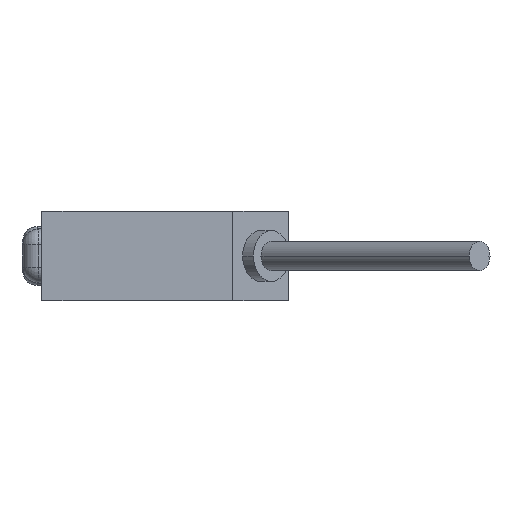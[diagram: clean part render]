
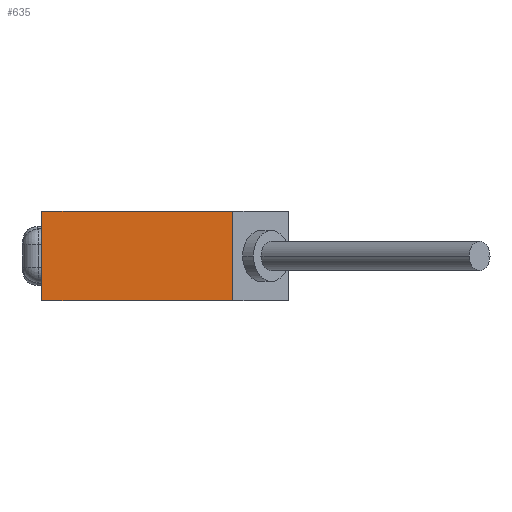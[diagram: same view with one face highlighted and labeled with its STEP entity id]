
A CAD part, left-side view. The second image highlights one B-rep face of the part: STEP entity #635.
In plain terms, the highlighted planar face has unit normal (-1, 0, 0) as drawn and (1, 0, 0) by its records, which use the part's own axes.
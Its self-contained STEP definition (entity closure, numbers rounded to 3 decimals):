
#320 = EDGE_CURVE ( 'NONE', #451, #527, #1529, .T. ) ;
#371 = VERTEX_POINT ( 'NONE', #1625 ) ;
#376 = VERTEX_POINT ( 'NONE', #1681 ) ;
#451 = VERTEX_POINT ( 'NONE', #1804 ) ;
#518 = EDGE_CURVE ( 'NONE', #376, #371, #1941, .T. ) ;
#527 = VERTEX_POINT ( 'NONE', #1922 ) ;
#635 = ADVANCED_FACE ( 'NONE', ( #2088 ), #2087, .F. ) ;
#636 = EDGE_LOOP ( 'NONE', ( #637, #638, #640, #641 ) ) ;
#637 = ORIENTED_EDGE ( 'NONE', *, *, #518, .T. ) ;
#638 = ORIENTED_EDGE ( 'NONE', *, *, #639, .T. ) ;
#639 = EDGE_CURVE ( 'NONE', #371, #527, #2149, .T. ) ;
#640 = ORIENTED_EDGE ( 'NONE', *, *, #320, .F. ) ;
#641 = ORIENTED_EDGE ( 'NONE', *, *, #642, .F. ) ;
#642 = EDGE_CURVE ( 'NONE', #376, #451, #2145, .T. ) ;
#1529 = LINE ( 'NONE', #1592, #1591 ) ;
#1590 = DIRECTION ( 'NONE',  ( 0., 0., -1. ) ) ;
#1591 = VECTOR ( 'NONE', #1590, 1000. ) ;
#1592 = CARTESIAN_POINT ( 'NONE',  ( 20., 0., 5.6 ) ) ;
#1625 = CARTESIAN_POINT ( 'NONE',  ( 20., -24., -5.6 ) ) ;
#1681 = CARTESIAN_POINT ( 'NONE',  ( 20., -24., 5.6 ) ) ;
#1804 = CARTESIAN_POINT ( 'NONE',  ( 20., 0., 5.6 ) ) ;
#1922 = CARTESIAN_POINT ( 'NONE',  ( 20., 0., -5.6 ) ) ;
#1938 = DIRECTION ( 'NONE',  ( 0., 0., -1. ) ) ;
#1939 = VECTOR ( 'NONE', #1938, 1000. ) ;
#1940 = CARTESIAN_POINT ( 'NONE',  ( 20., -24., 55.193 ) ) ;
#1941 = LINE ( 'NONE', #1940, #1939 ) ;
#2083 = DIRECTION ( 'NONE',  ( 0., -1., 0. ) ) ;
#2084 = DIRECTION ( 'NONE',  ( -1., 0., 0. ) ) ;
#2085 = CARTESIAN_POINT ( 'NONE',  ( 20., 0., 5.6 ) ) ;
#2086 = AXIS2_PLACEMENT_3D ( 'NONE', #2085, #2084, #2083 ) ;
#2087 = PLANE ( 'NONE',  #2086 ) ;
#2088 = FACE_OUTER_BOUND ( 'NONE', #636, .T. ) ;
#2142 = DIRECTION ( 'NONE',  ( 0., 1., 0. ) ) ;
#2143 = VECTOR ( 'NONE', #2142, 1000. ) ;
#2144 = CARTESIAN_POINT ( 'NONE',  ( 20., 0., 5.6 ) ) ;
#2145 = LINE ( 'NONE', #2144, #2143 ) ;
#2146 = DIRECTION ( 'NONE',  ( 0., 1., 0. ) ) ;
#2147 = VECTOR ( 'NONE', #2146, 1000. ) ;
#2148 = CARTESIAN_POINT ( 'NONE',  ( 20., 0., -5.6 ) ) ;
#2149 = LINE ( 'NONE', #2148, #2147 ) ;
